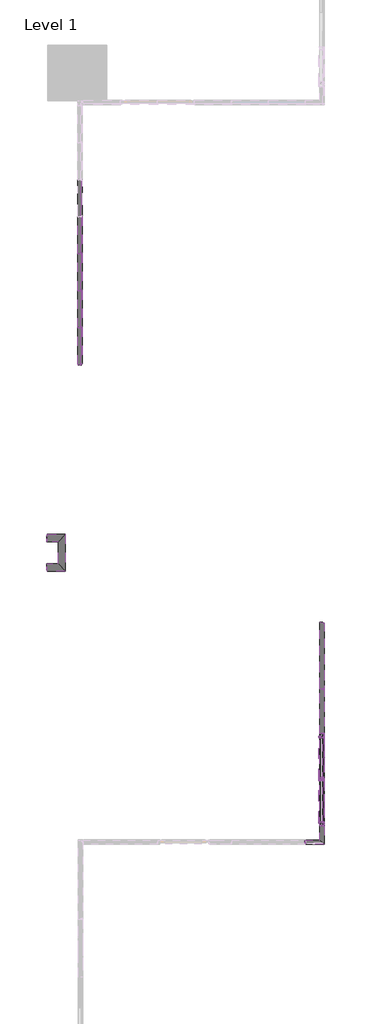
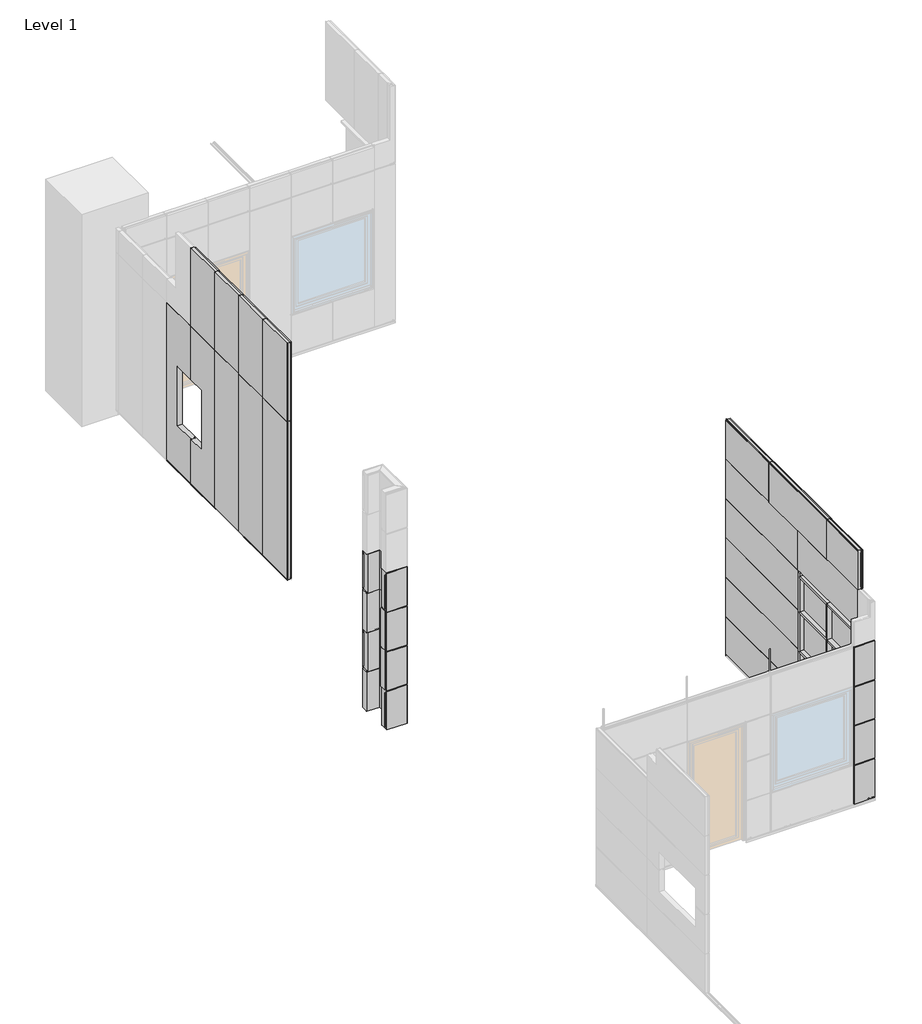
# One storey, part 3 of 8: 35 members, 33 plates.
"""IFC4 building model written with IfcOpenShell, lengths in millimetres."""

from ifc_helpers import new_model, si_unit, frame, origin, place, context, project, spatial, polyline, outline, extrude, faceted_brep, transform, mapped, element, save
from components import rectangular_mullion_6f3fd3cb, rectangular_mullion_86b3e6d7, rectangular_mullion_52986066, rectangular_mullion_401f5c11, rectangular_mullion_d7cd8770, rectangular_mullion_5a3240ae, rectangular_mullion_ec726168, rectangular_mullion_d88ccec7, rectangular_mullion_aa9de916, rectangular_mullion_dd22ac08, qb_typ_1_2f4cd647, qb_typ_1_d55a5ac8, qb_typ_1_eb4f195e, qb_typ_1_9b423ec7, qb_typ_1_69f6eb2a, qb_typ_1_f948df83, qb_typ_1_bbeed922, qb_typ_1_6f92aae7, qb_typ_2_ca77c89d, qb_typ_3_3dfc6f2a, qb_typ_3_48853b8a, qb_typ_3_5a49b5ee, qb_typ_3_3e02adca, qb_typ_4_36cb559f, system_panel_glazed_fed7d1a5, system_panel_glazed_3e1611a5, system_panel_glazed_b2c2fb9a

model = new_model("IFC4")

# Units and contexts
model_context = context("Model", 3, world=origin())
ifc_project = project(units=[si_unit("LENGTHUNIT", "METRE", prefix="MILLI")], contexts=[model_context])

# Site, building, storey
site = spatial("IfcSite", under=ifc_project)
building = spatial("IfcBuilding", under=site)
storey = spatial("IfcBuildingStorey", under=building, Name="Level 1", Elevation=0.0)

# Members
placement = place(None, origin())
rectangular_mullion_shape = rectangular_mullion_6f3fd3cb(model_context)
element("IfcMember", 1, ObjectType="Rectangular Mullion : TR_CW_¸ALU_internal", at=placement, inside=storey, context=model_context, shape_type="MappedRepresentation", body=[
    mapped(rectangular_mullion_shape, transform((0.0, -10250.1, 2135.0), x_axis=(0.0, -1.0, 0.0), y_axis=(-1.0, 0.0, 0.0), z_axis=(0.0, 0.0, -1.0))),
])
rectangular_mullion_2_shape = rectangular_mullion_86b3e6d7(model_context)
element("IfcMember", 2, ObjectType="Rectangular Mullion : TR_CW_ALU_border_TR_m", at=placement, inside=storey, context=model_context, shape_type="MappedRepresentation", body=[
    mapped(rectangular_mullion_2_shape, transform((0.0, -11500.1, 2135.0), x_axis=(0.0, -1.0, 0.0), y_axis=(-1.0, 0.0, 0.0), z_axis=(0.0, 0.0, -1.0))),
])
element("IfcMember", 3, ObjectType="Rectangular Mullion : TR_CW_ALU_border_TR", at=placement, inside=storey, context=model_context, shape_type="MappedRepresentation", body=[
    mapped(rectangular_mullion_2_shape, transform((0.0, -9000.1, 3135.0), x_axis=(0.0, 1.0, 0.0), y_axis=(-1.0, 0.0, 0.0), z_axis=(0.0, 0.0, 1.0))),
])
rectangular_mullion_3_shape = rectangular_mullion_52986066(model_context)
element("IfcMember", 4, ObjectType="Rectangular Mullion : TR_CW_¸ALU_internal", at=placement, inside=storey, context=model_context, shape_type="MappedRepresentation", body=[
    mapped(rectangular_mullion_3_shape, transform((0.0, -10225.1, 3135.0), x_axis=(0.0, 0.0, 1.0), y_axis=(-1.0, 0.0, 0.0), z_axis=(0.0, -1.0, 0.0))),
])
element("IfcMember", 5, ObjectType="Rectangular Mullion : TR_CW_¸ALU_internal", at=placement, inside=storey, context=model_context, shape_type="MappedRepresentation", body=[
    mapped(rectangular_mullion_3_shape, transform((0.0, -11382.6, 3135.0), x_axis=(0.0, 0.0, 1.0), y_axis=(-1.0, 0.0, 0.0), z_axis=(0.0, -1.0, 0.0))),
])
element("IfcMember", 6, ObjectType="Rectangular Mullion : TR_CW_¸ALU_internal", at=placement, inside=storey, context=model_context, shape_type="MappedRepresentation", body=[
    mapped(rectangular_mullion_3_shape, transform((0.0, -10225.1, 2135.0), x_axis=(0.0, 0.0, 1.0), y_axis=(-1.0, 0.0, 0.0), z_axis=(0.0, -1.0, 0.0))),
])
element("IfcMember", 7, ObjectType="Rectangular Mullion : TR_CW_¸ALU_internal", at=placement, inside=storey, context=model_context, shape_type="MappedRepresentation", body=[
    mapped(rectangular_mullion_3_shape, transform((0.0, -11382.6, 2135.0), x_axis=(0.0, 0.0, 1.0), y_axis=(-1.0, 0.0, 0.0), z_axis=(0.0, -1.0, 0.0))),
])
rectangular_mullion_4_shape = rectangular_mullion_401f5c11(model_context)
element("IfcMember", 8, ObjectType="Rectangular Mullion : TR_CW_ALU_border_TONGUE", at=placement, inside=storey, context=model_context, shape_type="MappedRepresentation", body=[
    mapped(rectangular_mullion_4_shape, transform((0.0, -9117.6, 1150.0), x_axis=(0.0, 0.0, -1.0), y_axis=(-1.0, 0.0, 0.0), z_axis=(0.0, 1.0, 0.0))),
])
rectangular_mullion_5_shape = rectangular_mullion_d7cd8770(model_context)
element("IfcMember", 9, ObjectType="Rectangular Mullion : TR_CW_¸ALU_internal", at=placement, inside=storey, context=model_context, shape_type="MappedRepresentation", body=[
    mapped(rectangular_mullion_5_shape, transform((0.0, -10250.1, 1251.0), x_axis=(0.0, -1.0, 0.0), y_axis=(-1.0, 0.0, 0.0), z_axis=(0.0, 0.0, -1.0))),
])
rectangular_mullion_6_shape = rectangular_mullion_5a3240ae(model_context)
element("IfcMember", 10, ObjectType="Rectangular Mullion : TR_CW_ALU_border_TR", at=placement, inside=storey, context=model_context, shape_type="MappedRepresentation", body=[
    mapped(rectangular_mullion_6_shape, transform((0.0, -9000.1, 2135.0), x_axis=(0.0, 1.0, 0.0), y_axis=(-1.0, 0.0, 0.0), z_axis=(0.0, 0.0, 1.0))),
])
rectangular_mullion_7_shape = rectangular_mullion_ec726168(model_context)
element("IfcMember", 11, ObjectType="Rectangular Mullion : TR_CW_ALU_border_TR_m", at=placement, inside=storey, context=model_context, shape_type="MappedRepresentation", body=[
    mapped(rectangular_mullion_7_shape, transform((0.0, -11500.1, 3135.0), x_axis=(0.0, -1.0, 0.0), y_axis=(-1.0, 0.0, 0.0), z_axis=(0.0, 0.0, -1.0))),
])
element("IfcMember", 12, ObjectType="Rectangular Mullion : TR_CW_ALU_border_TR", at=placement, inside=storey, context=model_context, shape_type="MappedRepresentation", body=[
    mapped(rectangular_mullion_7_shape, transform((0.0, -9000.1, 4150.0), x_axis=(0.0, 1.0, 0.0), y_axis=(-1.0, 0.0, 0.0), z_axis=(0.0, 0.0, 1.0))),
])
element("IfcMember", 13, ObjectType="Rectangular Mullion : TR_CW_ALU_border_TONGUE", at=placement, inside=storey, context=model_context, shape_type="MappedRepresentation", body=[
    mapped(rectangular_mullion_4_shape, transform((0.0, -10250.1, 1150.0), x_axis=(0.0, 0.0, -1.0), y_axis=(-1.0, 0.0, 0.0), z_axis=(0.0, 1.0, 0.0))),
])
element("IfcMember", 14, ObjectType="Rectangular Mullion : TR_CW_ALU_border_TR_m", at=placement, inside=storey, context=model_context, shape_type="MappedRepresentation", body=[
    mapped(rectangular_mullion_6_shape, transform((0.0, -11500.1, 1150.0), x_axis=(0.0, -1.0, 0.0), y_axis=(-1.0, 0.0, 0.0), z_axis=(0.0, 0.0, -1.0))),
])
rectangular_mullion_8_shape = rectangular_mullion_d88ccec7(model_context)
element("IfcMember", 15, ObjectType="Rectangular Mullion : TR_CW_ALU_border_GROOVE", at=placement, inside=storey, context=model_context, shape_type="MappedRepresentation", body=[
    mapped(rectangular_mullion_8_shape, transform((0.0, -11382.6, 4150.0), x_axis=(0.0, 0.0, 1.0), y_axis=(-1.0, 0.0, 0.0), z_axis=(0.0, -1.0, 0.0))),
])
element("IfcMember", 16, ObjectType="Rectangular Mullion : TR_CW_ALU_border_GROOVE", at=placement, inside=storey, context=model_context, shape_type="MappedRepresentation", body=[
    mapped(rectangular_mullion_8_shape, transform((0.0, -10250.1, 4150.0), x_axis=(0.0, 0.0, 1.0), y_axis=(-1.0, 0.0, 0.0), z_axis=(0.0, -1.0, 0.0))),
])
rectangular_mullion_9_shape = rectangular_mullion_aa9de916(model_context)
element("IfcMember", 17, ObjectType="Rectangular Mullion : TR_CW_¸ALU_internal", at=placement, inside=storey, context=model_context, shape_type="MappedRepresentation", body=[
    mapped(rectangular_mullion_9_shape, transform((0.0, -10250.1, 3135.0), x_axis=(0.0, -1.0, 0.0), y_axis=(-1.0, 0.0, 0.0), z_axis=(0.0, 0.0, -1.0))),
])
rectangular_mullion_10_shape = rectangular_mullion_dd22ac08(model_context)
element("IfcMember", 18, ObjectType="Rectangular Mullion : QO-H-01_01 Joint", at=placement, inside=storey, context=model_context, shape_type="MappedRepresentation", body=[
    mapped(rectangular_mullion_10_shape, transform((0.0, -9000.1, 150.0), x_axis=(0.0, -1.0, 0.0), y_axis=(-1.0, 0.0, 0.0), z_axis=(0.0, 0.0, -1.0))),
])
element("IfcMember", 19, ObjectType="Rectangular Mullion : QO-H-01_01 Joint", at=placement, inside=storey, context=model_context, shape_type="MappedRepresentation", body=[
    mapped(rectangular_mullion_10_shape, transform((0.0, -11500.1, 150.0), x_axis=(0.0, -1.0, 0.0), y_axis=(-1.0, 0.0, 0.0), z_axis=(0.0, 0.0, -1.0))),
])
element("IfcMember", 20, ObjectType="Rectangular Mullion : QO-H-01_01 Joint", at=placement, inside=storey, context=model_context, shape_type="MappedRepresentation", body=[
    mapped(rectangular_mullion_10_shape, transform((0.0, -9000.1, 1150.0), x_axis=(0.0, -1.0, 0.0), y_axis=(-1.0, 0.0, 0.0), z_axis=(0.0, 0.0, -1.0))),
])
element("IfcMember", 21, ObjectType="Rectangular Mullion : QO-H-01_01 Joint", at=placement, inside=storey, context=model_context, shape_type="MappedRepresentation", body=[
    mapped(rectangular_mullion_10_shape, transform((0.0, -9000.1, 2150.0), x_axis=(0.0, -1.0, 0.0), y_axis=(-1.0, 0.0, 0.0), z_axis=(0.0, 0.0, -1.0))),
])
element("IfcMember", 22, ObjectType="Rectangular Mullion : QO-H-01_01 Joint", at=placement, inside=storey, context=model_context, shape_type="MappedRepresentation", body=[
    mapped(rectangular_mullion_10_shape, transform((0.0, -9000.1, 3150.0), x_axis=(0.0, -1.0, 0.0), y_axis=(-1.0, 0.0, 0.0), z_axis=(0.0, 0.0, -1.0))),
])
element("IfcMember", 23, ObjectType="Rectangular Mullion : QO-H-01_01 Joint", at=placement, inside=storey, context=model_context, shape_type="MappedRepresentation", body=[
    mapped(rectangular_mullion_10_shape, transform((0.0, -11500.1, 1150.0), x_axis=(0.0, -1.0, 0.0), y_axis=(-1.0, 0.0, 0.0), z_axis=(0.0, 0.0, -1.0))),
])
element("IfcMember", 24, ObjectType="Rectangular Mullion : QO-H-01_01 Joint", at=placement, inside=storey, context=model_context, shape_type="MappedRepresentation", body=[
    mapped(rectangular_mullion_10_shape, transform((0.0, -11500.1, 2150.0), x_axis=(0.0, -1.0, 0.0), y_axis=(-1.0, 0.0, 0.0), z_axis=(0.0, 0.0, -1.0))),
])
element("IfcMember", 25, ObjectType="Rectangular Mullion : QO-H-01_01 Joint", at=placement, inside=storey, context=model_context, shape_type="MappedRepresentation", body=[
    mapped(rectangular_mullion_10_shape, transform((0.0, -11500.1, 3150.0), x_axis=(0.0, -1.0, 0.0), y_axis=(-1.0, 0.0, 0.0), z_axis=(0.0, 0.0, -1.0))),
])
element("IfcMember", 26, ObjectType="Rectangular Mullion : QO-H-01_01 Joint", at=placement, inside=storey, context=model_context, shape_type="MappedRepresentation", body=[
    mapped(rectangular_mullion_10_shape, transform((0.0, -11500.1, 4150.0), x_axis=(0.0, -1.0, 0.0), y_axis=(-1.0, 0.0, 0.0), z_axis=(0.0, 0.0, -1.0))),
])
element("IfcMember", 27, ObjectType="Rectangular Mullion : QO-H-01_01 Joint", at=placement, inside=storey, context=model_context, shape_type="MappedRepresentation", body=[
    mapped(rectangular_mullion_10_shape, transform((0.0, -9000.1, 4150.0), x_axis=(0.0, -1.0, 0.0), y_axis=(-1.0, 0.0, 0.0), z_axis=(0.0, 0.0, -1.0))),
])
element("IfcMember", 28, ObjectType="Rectangular Mullion : QO-H-01_01 Joint", at=placement, inside=storey, context=model_context, shape_type="MappedRepresentation", body=[
    mapped(rectangular_mullion_10_shape, transform((0.0, -11500.1, 5150.0), x_axis=(0.0, -1.0, 0.0), y_axis=(-1.0, 0.0, 0.0), z_axis=(0.0, 0.0, -1.0))),
])
element("IfcMember", 29, ObjectType="Rectangular Mullion : QO-H-01_01 Joint", at=placement, inside=storey, context=model_context, shape_type="MappedRepresentation", body=[
    mapped(rectangular_mullion_10_shape, transform((0.0, -10200.1, 5150.0), x_axis=(0.0, -1.0, 0.0), y_axis=(-1.0, 0.0, 0.0), z_axis=(0.0, 0.0, -1.0))),
])
element("IfcMember", 30, ObjectType="Rectangular Mullion : QO-H-01_01 Joint", at=placement, inside=storey, context=model_context, shape_type="MappedRepresentation", body=[
    mapped(rectangular_mullion_10_shape, transform((0.0, -7800.1, 5150.0), x_axis=(0.0, -1.0, 0.0), y_axis=(-1.0, 0.0, 0.0), z_axis=(0.0, 0.0, -1.0))),
])
element("IfcMember", 31, ObjectType="Rectangular Mullion : QO-V-01_01 Joint", at=placement, inside=storey, context=model_context, shape_type="MappedRepresentation", body=[
    mapped(rectangular_mullion_10_shape, transform((-6545.0000003, 4969.9999997, 4150.0), x_axis=(0.0, 0.0, 1.0), y_axis=(-1.0, 0.0, 0.0), z_axis=(0.0, -1.0, 0.0))),
])
element("IfcMember", 32, ObjectType="Rectangular Mullion : QO-V-01_01 Joint", at=placement, inside=storey, context=model_context, shape_type="MappedRepresentation", body=[
    mapped(rectangular_mullion_10_shape, transform((-6545.0000003, 3969.9999997, 4150.0), x_axis=(0.0, 0.0, 1.0), y_axis=(-1.0, 0.0, 0.0), z_axis=(0.0, -1.0, 0.0))),
])
element("IfcMember", 33, ObjectType="Rectangular Mullion : QO-V-01_01 Joint", at=placement, inside=storey, context=model_context, shape_type="MappedRepresentation", body=[
    mapped(rectangular_mullion_10_shape, transform((-6545.0000003, 2969.9999997, 4150.0), x_axis=(0.0, 0.0, 1.0), y_axis=(-1.0, 0.0, 0.0), z_axis=(0.0, -1.0, 0.0))),
])
element("IfcMember", 34, ObjectType="Rectangular Mullion : QO-V-01_01 Joint", at=placement, inside=storey, context=model_context, shape_type="MappedRepresentation", body=[
    mapped(rectangular_mullion_10_shape, transform((-6545.0000003, 1969.9999997, 4150.0), x_axis=(0.0, 0.0, 1.0), y_axis=(-1.0, 0.0, 0.0), z_axis=(0.0, -1.0, 0.0))),
])
element("IfcMember", 35, ObjectType="Rectangular Mullion : QO-V-01_01 Joint", at=placement, inside=storey, context=model_context, shape_type="MappedRepresentation", body=[
    mapped(rectangular_mullion_10_shape, transform((-6545.0000003, 970.0, 4150.0), x_axis=(0.0, 0.0, 1.0), y_axis=(-1.0, 0.0, 0.0), z_axis=(0.0, -1.0, 0.0))),
])

# Plates
qb_typ_1_shape = qb_typ_1_2f4cd647(model_context)
element("IfcPlate", 36, ObjectType="TR_C_H_QBISS_Panel : QB TYP 1", at=placement, inside=storey, context=model_context, shape_type="MappedRepresentation", body=[
    mapped(qb_typ_1_shape, transform((0.0, -7500.1, 150.0), x_axis=(0.0, -1.0, 0.0), y_axis=(1.0, 0.0, 0.0), z_axis=(0.0, 0.0, 1.0))),
])
element("IfcPlate", 37, ObjectType="TR_C_H_QBISS_Panel : QB TYP 1", at=placement, inside=storey, context=model_context, shape_type="MappedRepresentation", body=[
    mapped(qb_typ_1_shape, transform((0.0, -7500.1, 4150.0), x_axis=(0.0, -1.0, 0.0), y_axis=(1.0, 0.0, 0.0), z_axis=(0.0, 0.0, 1.0))),
])
qb_typ_1_2_shape = qb_typ_1_d55a5ac8(model_context)
element("IfcPlate", 38, ObjectType="TR_C_H_QBISS_Panel : QB TYP 1", at=placement, inside=storey, context=model_context, shape_type="MappedRepresentation", body=[
    mapped(qb_typ_1_2_shape, transform((0.0, -10250.1, 150.0), x_axis=(0.0, -1.0, 0.0), y_axis=(1.0, 0.0, 0.0), z_axis=(0.0, 0.0, 1.0))),
])
element("IfcPlate", 39, ObjectType="TR_C_H_QBISS_Panel : QB TYP 1", at=placement, inside=storey, context=model_context, shape_type="MappedRepresentation", body=[
    mapped(qb_typ_1_2_shape, transform((0.0, -10250.1, 4150.0), x_axis=(0.0, -1.0, 0.0), y_axis=(1.0, 0.0, 0.0), z_axis=(0.0, 0.0, 1.0))),
])
qb_typ_1_3_shape = qb_typ_1_eb4f195e(model_context)
element("IfcPlate", 40, ObjectType="TR_C_H_QBISS_Panel : QB TYP 1", at=placement, inside=storey, context=model_context, shape_type="MappedRepresentation", body=[
    mapped(qb_typ_1_3_shape, transform((0.0, -6900.1, 5150.0), x_axis=(0.0, -1.0, 0.0), y_axis=(1.0, 0.0, 0.0), z_axis=(0.0, 0.0, 1.0))),
])
qb_typ_1_4_shape = qb_typ_1_9b423ec7(model_context)
element("IfcPlate", 41, ObjectType="TR_C_H_QBISS_Panel : QB TYP 1", at=placement, inside=storey, context=model_context, shape_type="MappedRepresentation", body=[
    mapped(qb_typ_1_4_shape, transform((0.0, -10850.1, 5150.0), x_axis=(0.0, -1.0, 0.0), y_axis=(1.0, 0.0, 0.0), z_axis=(0.0, 0.0, 1.0))),
])
qb_typ_1_5_shape = qb_typ_1_69f6eb2a(model_context)
element("IfcPlate", 42, ObjectType="TR_C_H_QBISS_Panel : QB TYP 1", at=placement, inside=storey, context=model_context, shape_type="MappedRepresentation", body=[
    mapped(qb_typ_1_5_shape, transform((0.0, -9000.1, 5150.0), x_axis=(0.0, -1.0, 0.0), y_axis=(1.0, 0.0, 0.0), z_axis=(0.0, 0.0, 1.0))),
])
qb_typ_1_6_shape = qb_typ_1_f948df83(model_context)
element("IfcPlate", 43, ObjectType="TR_C_V_QBISS_Panel : QB TYP 1", at=placement, inside=storey, context=model_context, shape_type="MappedRepresentation", body=[
    mapped(qb_typ_1_6_shape, transform((-6545.0000003, 4469.9999997, 4150.0), x_axis=(0.0, -1.0, 0.0), y_axis=(1.0, 0.0, 0.0), z_axis=(0.0, 0.0, 1.0))),
])
element("IfcPlate", 44, ObjectType="TR_C_V_QBISS_Panel : QB TYP 1", at=placement, inside=storey, context=model_context, shape_type="MappedRepresentation", body=[
    mapped(qb_typ_1_6_shape, transform((-6545.0000003, 3469.9999997, 4150.0), x_axis=(0.0, -1.0, 0.0), y_axis=(1.0, 0.0, 0.0), z_axis=(0.0, 0.0, 1.0))),
])
element("IfcPlate", 45, ObjectType="TR_C_V_QBISS_Panel : QB TYP 1", at=placement, inside=storey, context=model_context, shape_type="MappedRepresentation", body=[
    mapped(qb_typ_1_6_shape, transform((-6545.0000003, 2469.9999997, 4150.0), x_axis=(0.0, -1.0, 0.0), y_axis=(1.0, 0.0, 0.0), z_axis=(0.0, 0.0, 1.0))),
])
element("IfcPlate", 46, ObjectType="TR_C_V_QBISS_Panel : QB TYP 1", at=placement, inside=storey, context=model_context, shape_type="MappedRepresentation", body=[
    mapped(qb_typ_1_6_shape, transform((-6545.0000003, 1469.9999998, 4150.0), x_axis=(0.0, -1.0, 0.0), y_axis=(1.0, 0.0, 0.0), z_axis=(0.0, 0.0, 1.0))),
])
qb_typ_1_7_shape = qb_typ_1_bbeed922(model_context)
element("IfcPlate", 47, ObjectType="TR_C_H_QBISS_Corner_Tr_A : QB TYP 1", at=placement, inside=storey, context=model_context, shape_type="MappedRepresentation", body=[
    mapped(qb_typ_1_7_shape, transform((0.0, -11750.1, 150.0), x_axis=(0.0, -1.0, 0.0), y_axis=(1.0, 0.0, 0.0), z_axis=(0.0, 0.0, 1.0))),
])
element("IfcPlate", 48, ObjectType="TR_C_H_QBISS_Corner_Tr_A : QB TYP 1", at=placement, inside=storey, context=model_context, shape_type="MappedRepresentation", body=[
    mapped(qb_typ_1_7_shape, transform((0.0, -11750.1, 3150.0), x_axis=(0.0, -1.0, 0.0), y_axis=(1.0, 0.0, 0.0), z_axis=(0.0, 0.0, 1.0))),
])
qb_typ_1_8_shape = qb_typ_1_6f92aae7(model_context)
element("IfcPlate", 49, ObjectType="TR_C_H_QBISS_U_Corner_Tr : QB TYP 1", at=placement, inside=storey, context=model_context, shape_type="MappedRepresentation", body=[
    mapped(qb_typ_1_8_shape, transform((-7000.0, -4114.1000003, 0.0), x_axis=(0.0, -1.0, 0.0), y_axis=(1.0, 0.0, 0.0), z_axis=(0.0, 0.0, 1.0))),
])
qb_typ_2_shape = qb_typ_2_ca77c89d(model_context)
element("IfcPlate", 50, ObjectType="TR_C_H_QBISS_U_Corner_Tr : QB TYP 2", at=placement, inside=storey, context=model_context, shape_type="MappedRepresentation", body=[
    mapped(qb_typ_2_shape, transform((-7000.0, -4114.1000003, 1000.0), x_axis=(0.0, -1.0, 0.0), y_axis=(1.0, 0.0, 0.0), z_axis=(0.0, 0.0, 1.0))),
])
element("IfcPlate", 51, ObjectType="TR_C_V_QBISS_Panel : QB TYP 3", at=placement, inside=storey, context=model_context, shape_type="SolidModel", body=[
    extrude(outline(polyline([(-6569.0000003, 4995.4999997), (-6569.0000003, 4975.4999997), (-6570.499832, 4975.4999997), (-6570.499832, 4982.2976404), (-6572.9998296, 4982.2976404), (-6572.9998296, 4981.4976404), (-6573.7998431, 4981.4976404), (-6573.7998431, 4989.4976969), (-6572.9998296, 4989.4976969), (-6572.9998296, 4988.6976969), (-6570.499832, 4988.6976969), (-6570.499832, 4995.4999997), (-6569.0000003, 4995.4999997)])), frame((0.0, 0.0, 2805.0), z_axis=(0.0, 0.0, 1.0), x_axis=(1.0, 0.0, 0.0)), (0.0, 0.0, 1.0), 1332.5),
    extrude(outline(polyline([(-6569.0000003, 4975.4999997), (-6570.499832, 4975.4999997), (-6570.499832, 4982.2976404), (-6572.9998296, 4982.2976404), (-6572.9998296, 4981.4976404), (-6573.7998431, 4981.4976404), (-6573.7998431, 4989.4976969), (-6572.9998296, 4989.4976969), (-6572.9998296, 4988.6976969), (-6570.499832, 4988.6976969), (-6570.499832, 4995.4999997), (-6569.0000003, 4995.4999997), (-6569.0000003, 4975.4999997)])), frame((0.0, 0.0, 162.5), z_axis=(0.0, 0.0, 1.0), x_axis=(1.0, 0.0, 0.0)), (0.0, 0.0, 1.0), 1132.5),
    faceted_brep([(-6653.0000003, 5969.9999997, 4162.4), (-6653.0000003, 5956.9999997, 4162.4), (-6659.0000003, 5956.9999997, 4162.4), (-6659.0000003, 5977.9999997, 4162.4), (-6665.0000003, 5977.9999997, 4162.4), (-6665.0000003, 4983.9999997, 4162.4), (-6659.0000003, 4977.9999997, 4162.4), (-6659.0000003, 4959.9999997, 4162.4), (-6653.0000003, 4959.9999997, 4162.4), (-6653.0000003, 4969.9999997, 4162.4), (-6594.0000003, 4969.9999997, 4162.4), (-6594.0000003, 5969.9999997, 4162.4), (-6653.0000003, 4969.9999997, 137.6), (-6653.0000003, 4959.9999997, 137.6), (-6659.0000003, 4959.9999997, 137.6), (-6659.0000003, 4977.9999997, 137.6), (-6665.0000003, 4983.9999997, 137.6), (-6665.0000003, 5977.9999997, 137.6), (-6659.0000003, 5977.9999997, 137.6), (-6659.0000003, 5956.9999997, 137.6), (-6653.0000003, 5956.9999997, 137.6), (-6653.0000003, 5969.9999997, 137.6), (-6594.0000003, 5969.9999997, 137.6), (-6594.0000003, 4969.9999997, 137.6), (-6594.0000003, 5969.9999997, 162.7), (-6594.0000003, 4969.9999997, 162.7), (-6584.0000003, 5969.9999997, 162.7), (-6584.0000003, 5956.9999997, 162.7), (-6574.0000003, 5956.9999997, 162.7), (-6574.0000003, 5973.9999997, 162.7), (-6545.0000003, 5973.9999997, 162.7), (-6545.0000003, 4996.9999997, 162.7), (-6574.0000003, 4996.9999997, 162.7), (-6574.0000003, 4959.9999997, 162.7), (-6584.0000003, 4959.9999997, 162.7), (-6584.0000003, 4969.9999997, 162.7), (-6665.0000003, 4983.9999997, 1250.0), (-6665.0000003, 4983.9999997, 1295.0), (-6665.0000003, 5535.0, 1295.0), (-6665.0000003, 5535.0, 2805.0), (-6665.0000003, 4983.9999997, 2805.0), (-6665.0000003, 4983.9999997, 2850.0), (-6659.0000003, 4977.9999997, 2805.0), (-6659.0000003, 4959.9999997, 2805.0), (-6653.0000003, 4959.9999997, 2805.0), (-6653.0000003, 4969.9999997, 2805.0), (-6584.0000003, 4969.9999997, 2805.0), (-6584.0000003, 4969.9999997, 4137.3), (-6594.0000003, 4969.9999997, 4137.3), (-6584.0000003, 4959.9999997, 4137.3), (-6584.0000003, 4959.9999997, 2805.0), (-6574.0000003, 4959.9999997, 4137.3), (-6574.0000003, 4959.9999997, 2805.0), (-6574.0000003, 4996.9999997, 4137.3), (-6574.0000003, 4996.9999997, 2805.0), (-6545.0000003, 4996.9999997, 4137.3), (-6545.0000003, 4996.9999997, 2805.0), (-6574.0000003, 5973.9999997, 4137.3), (-6545.0000003, 5973.9999997, 4137.3), (-6574.0000003, 5956.9999997, 4137.3), (-6584.0000003, 5956.9999997, 4137.3), (-6584.0000003, 5969.9999997, 4137.3), (-6594.0000003, 5969.9999997, 4137.3), (-6584.0000003, 4969.9999997, 1295.0), (-6653.0000003, 4969.9999997, 1295.0), (-6584.0000003, 4959.9999997, 1295.0), (-6574.0000003, 4959.9999997, 1295.0), (-6574.0000003, 4996.9999997, 1295.0), (-6545.0000003, 4996.9999997, 1295.0), (-6545.0000003, 5535.0, 2805.0), (-6545.0000003, 5535.0, 1295.0), (-6659.0000003, 4977.9999997, 1295.0), (-6659.0000003, 4959.9999997, 1295.0), (-6653.0000003, 4959.9999997, 1295.0)], [[[0, 1, 2, 3, 4, 5, 6, 7, 8, 9, 10, 11]], [[12, 13, 14, 15, 16, 17, 18, 19, 20, 21, 22, 23]], [[23, 22, 24, 25]], [[25, 24, 26, 27, 28, 29, 30, 31, 32, 33, 34, 35]], [[1, 0, 21, 20]], [[2, 1, 20, 19]], [[3, 2, 19, 18]], [[4, 3, 18, 17]], [[5, 4, 17, 16, 36, 37, 38, 39, 40, 41]], [[6, 5, 41, 40, 42]], [[7, 6, 42, 43]], [[8, 7, 43, 44]], [[9, 8, 44, 45]], [[10, 9, 45, 46, 47, 48]], [[49, 47, 46, 50]], [[51, 49, 50, 52]], [[53, 51, 52, 54]], [[55, 53, 54, 56]], [[30, 29, 57, 58]], [[29, 28, 59, 57]], [[28, 27, 60, 59]], [[27, 26, 61, 60]], [[0, 11, 62, 61, 26, 24, 22, 21]], [[11, 10, 48, 62]], [[48, 47, 49, 51, 53, 55, 58, 57, 59, 60, 61, 62]], [[12, 23, 25, 35, 63, 64]], [[35, 34, 65, 63]], [[34, 33, 66, 65]], [[33, 32, 67, 66]], [[32, 31, 68, 67]], [[31, 30, 58, 55, 56, 69, 70, 68]], [[39, 69, 56, 54, 52, 50, 46, 45, 44, 43, 42, 40]], [[70, 38, 37, 71, 72, 73, 64, 63, 65, 66, 67, 68]], [[69, 39, 38, 70]], [[16, 15, 71, 37, 36]], [[15, 14, 72, 71]], [[14, 13, 73, 72]], [[13, 12, 64, 73]]]),
])
element("IfcPlate", 52, ObjectType="TR_C_V_QBISS_Panel : QB TYP 3", at=placement, inside=storey, context=model_context, shape_type="SolidModel", body=[
    extrude(outline(polyline([(-6569.0000003, 3975.4999997), (-6570.499832, 3975.4999997), (-6570.499832, 3982.2976404), (-6572.9998296, 3982.2976404), (-6572.9998296, 3981.4976404), (-6573.7998431, 3981.4976404), (-6573.7998431, 3989.4976969), (-6572.9998296, 3989.4976969), (-6572.9998296, 3988.6976969), (-6570.499832, 3988.6976969), (-6570.499832, 3995.4999997), (-6569.0000003, 3995.4999997), (-6569.0000003, 3975.4999997)])), frame((0.0, 0.0, 162.5), z_axis=(0.0, 0.0, 1.0), x_axis=(1.0, 0.0, 0.0)), (0.0, 0.0, 1.0), 3975.0),
    faceted_brep([(-6653.0000003, 4969.9999997, 4162.4), (-6653.0000003, 4956.9999997, 4162.4), (-6659.0000003, 4956.9999997, 4162.4), (-6659.0000003, 4977.9999997, 4162.4), (-6665.0000003, 4977.9999997, 4162.4), (-6665.0000003, 3983.9999997, 4162.4), (-6659.0000003, 3977.9999997, 4162.4), (-6659.0000003, 3959.9999997, 4162.4), (-6653.0000003, 3959.9999997, 4162.4), (-6653.0000003, 3969.9999997, 4162.4), (-6594.0000003, 3969.9999997, 4162.4), (-6594.0000003, 4969.9999997, 4162.4), (-6653.0000003, 3969.9999997, 137.6), (-6653.0000003, 3959.9999997, 137.6), (-6659.0000003, 3959.9999997, 137.6), (-6659.0000003, 3977.9999997, 137.6), (-6665.0000003, 3983.9999997, 137.6), (-6665.0000003, 4977.9999997, 137.6), (-6659.0000003, 4977.9999997, 137.6), (-6659.0000003, 4956.9999997, 137.6), (-6653.0000003, 4956.9999997, 137.6), (-6653.0000003, 4969.9999997, 137.6), (-6594.0000003, 4969.9999997, 137.6), (-6594.0000003, 3969.9999997, 137.6), (-6594.0000003, 4969.9999997, 162.7), (-6594.0000003, 3969.9999997, 162.7), (-6584.0000003, 4969.9999997, 162.7), (-6584.0000003, 4956.9999997, 162.7), (-6574.0000003, 4956.9999997, 162.7), (-6574.0000003, 4973.9999997, 162.7), (-6545.0000003, 4973.9999997, 162.7), (-6545.0000003, 3996.9999997, 162.7), (-6574.0000003, 3996.9999997, 162.7), (-6574.0000003, 3959.9999997, 162.7), (-6584.0000003, 3959.9999997, 162.7), (-6584.0000003, 3969.9999997, 162.7), (-6653.0000003, 4969.9999997, 2805.0), (-6653.0000003, 4956.9999997, 2805.0), (-6659.0000003, 4956.9999997, 2805.0), (-6659.0000003, 4977.9999997, 2805.0), (-6665.0000003, 4977.9999997, 2805.0), (-6665.0000003, 4977.9999997, 2850.0), (-6665.0000003, 4525.0, 2805.0), (-6665.0000003, 4525.0, 1295.0), (-6665.0000003, 4977.9999997, 1295.0), (-6665.0000003, 4977.9999997, 1250.0), (-6584.0000003, 3969.9999997, 4137.3), (-6594.0000003, 3969.9999997, 4137.3), (-6584.0000003, 3959.9999997, 4137.3), (-6574.0000003, 3959.9999997, 4137.3), (-6574.0000003, 3996.9999997, 4137.3), (-6545.0000003, 3996.9999997, 4137.3), (-6574.0000003, 4973.9999997, 4137.3), (-6545.0000003, 4973.9999997, 4137.3), (-6545.0000003, 4973.9999997, 2805.0), (-6574.0000003, 4973.9999997, 2805.0), (-6574.0000003, 4956.9999997, 4137.3), (-6574.0000003, 4956.9999997, 2805.0), (-6584.0000003, 4956.9999997, 4137.3), (-6584.0000003, 4956.9999997, 2805.0), (-6584.0000003, 4969.9999997, 4137.3), (-6584.0000003, 4969.9999997, 2805.0), (-6594.0000003, 4969.9999997, 4137.3), (-6545.0000003, 4973.9999997, 1295.0), (-6545.0000003, 4525.0, 1295.0), (-6545.0000003, 4525.0, 2805.0), (-6574.0000003, 4973.9999997, 1295.0), (-6574.0000003, 4956.9999997, 1295.0), (-6584.0000003, 4956.9999997, 1295.0), (-6584.0000003, 4969.9999997, 1295.0), (-6653.0000003, 4969.9999997, 1295.0), (-6653.0000003, 4956.9999997, 1295.0), (-6659.0000003, 4956.9999997, 1295.0), (-6659.0000003, 4977.9999997, 1295.0)], [[[0, 1, 2, 3, 4, 5, 6, 7, 8, 9, 10, 11]], [[12, 13, 14, 15, 16, 17, 18, 19, 20, 21, 22, 23]], [[23, 22, 24, 25]], [[25, 24, 26, 27, 28, 29, 30, 31, 32, 33, 34, 35]], [[1, 0, 36, 37]], [[2, 1, 37, 38]], [[3, 2, 38, 39]], [[4, 3, 39, 40, 41]], [[5, 4, 41, 40, 42, 43, 44, 45, 17, 16]], [[6, 5, 16, 15]], [[7, 6, 15, 14]], [[8, 7, 14, 13]], [[9, 8, 13, 12]], [[10, 9, 12, 23, 25, 35, 46, 47]], [[35, 34, 48, 46]], [[34, 33, 49, 48]], [[33, 32, 50, 49]], [[32, 31, 51, 50]], [[52, 53, 54, 55]], [[56, 52, 55, 57]], [[58, 56, 57, 59]], [[60, 58, 59, 61]], [[0, 11, 62, 60, 61, 36]], [[11, 10, 47, 62]], [[47, 46, 48, 49, 50, 51, 53, 52, 56, 58, 60, 62]], [[31, 30, 63, 64, 65, 54, 53, 51]], [[65, 42, 40, 39, 38, 37, 36, 61, 59, 57, 55, 54]], [[43, 64, 63, 66, 67, 68, 69, 70, 71, 72, 73, 44]], [[30, 29, 66, 63]], [[29, 28, 67, 66]], [[28, 27, 68, 67]], [[27, 26, 69, 68]], [[22, 21, 70, 69, 26, 24]], [[42, 65, 64, 43]], [[21, 20, 71, 70]], [[18, 17, 45, 44, 73]], [[20, 19, 72, 71]], [[19, 18, 73, 72]]]),
])
element("IfcPlate", 53, ObjectType="TR_C_V_QBISS_Panel : QB TYP 3", at=placement, inside=storey, context=model_context, shape_type="SolidModel", body=[
    extrude(outline(polyline([(-6569.0000003, 2975.4999997), (-6570.499832, 2975.4999997), (-6570.499832, 2982.2976404), (-6572.9998296, 2982.2976404), (-6572.9998296, 2981.4976404), (-6573.7998431, 2981.4976404), (-6573.7998431, 2989.4976969), (-6572.9998296, 2989.4976969), (-6572.9998296, 2988.6976969), (-6570.499832, 2988.6976969), (-6570.499832, 2995.4999997), (-6569.0000003, 2995.4999997), (-6569.0000003, 2975.4999997)])), frame((0.0, 0.0, 162.5), z_axis=(0.0, 0.0, 1.0), x_axis=(1.0, 0.0, 0.0)), (0.0, 0.0, 1.0), 3975.0),
    faceted_brep([(-6653.0000003, 3969.9999997, 4162.4), (-6653.0000003, 3956.9999997, 4162.4), (-6659.0000003, 3956.9999997, 4162.4), (-6659.0000003, 3977.9999997, 4162.4), (-6665.0000003, 3977.9999997, 4162.4), (-6665.0000003, 2983.9999997, 4162.4), (-6659.0000003, 2977.9999997, 4162.4), (-6659.0000003, 2959.9999997, 4162.4), (-6653.0000003, 2959.9999997, 4162.4), (-6653.0000003, 2969.9999997, 4162.4), (-6594.0000003, 2969.9999997, 4162.4), (-6594.0000003, 3969.9999997, 4162.4), (-6653.0000003, 2969.9999997, 137.6), (-6653.0000003, 2959.9999997, 137.6), (-6659.0000003, 2959.9999997, 137.6), (-6659.0000003, 2977.9999997, 137.6), (-6665.0000003, 2983.9999997, 137.6), (-6665.0000003, 3977.9999997, 137.6), (-6659.0000003, 3977.9999997, 137.6), (-6659.0000003, 3956.9999997, 137.6), (-6653.0000003, 3956.9999997, 137.6), (-6653.0000003, 3969.9999997, 137.6), (-6594.0000003, 3969.9999997, 137.6), (-6594.0000003, 2969.9999997, 137.6), (-6594.0000003, 3969.9999997, 162.7), (-6594.0000003, 2969.9999997, 162.7), (-6584.0000003, 3969.9999997, 162.7), (-6584.0000003, 3956.9999997, 162.7), (-6574.0000003, 3956.9999997, 162.7), (-6574.0000003, 3973.9999997, 162.7), (-6545.0000003, 3973.9999997, 162.7), (-6545.0000003, 2996.9999997, 162.7), (-6574.0000003, 2996.9999997, 162.7), (-6574.0000003, 2959.9999997, 162.7), (-6584.0000003, 2959.9999997, 162.7), (-6584.0000003, 2969.9999997, 162.7), (-6584.0000003, 2969.9999997, 4137.3), (-6594.0000003, 2969.9999997, 4137.3), (-6584.0000003, 2959.9999997, 4137.3), (-6574.0000003, 2959.9999997, 4137.3), (-6574.0000003, 2996.9999997, 4137.3), (-6545.0000003, 2996.9999997, 4137.3), (-6545.0000003, 3973.9999997, 4137.3), (-6574.0000003, 3973.9999997, 4137.3), (-6574.0000003, 3956.9999997, 4137.3), (-6584.0000003, 3956.9999997, 4137.3), (-6584.0000003, 3969.9999997, 4137.3), (-6594.0000003, 3969.9999997, 4137.3)], [[[0, 1, 2, 3, 4, 5, 6, 7, 8, 9, 10, 11]], [[12, 13, 14, 15, 16, 17, 18, 19, 20, 21, 22, 23]], [[24, 25, 23, 22]], [[25, 24, 26, 27, 28, 29, 30, 31, 32, 33, 34, 35]], [[1, 0, 21, 20]], [[2, 1, 20, 19]], [[3, 2, 19, 18]], [[4, 3, 18, 17]], [[5, 4, 17, 16]], [[6, 5, 16, 15]], [[7, 6, 15, 14]], [[8, 7, 14, 13]], [[9, 8, 13, 12]], [[9, 12, 23, 25, 35, 36, 37, 10]], [[35, 34, 38, 36]], [[34, 33, 39, 38]], [[33, 32, 40, 39]], [[32, 31, 41, 40]], [[31, 30, 42, 41]], [[30, 29, 43, 42]], [[29, 28, 44, 43]], [[28, 27, 45, 44]], [[27, 26, 46, 45]], [[21, 0, 11, 47, 46, 26, 24, 22]], [[37, 47, 11, 10]], [[47, 37, 36, 38, 39, 40, 41, 42, 43, 44, 45, 46]]]),
])
qb_typ_3_shape = qb_typ_3_3dfc6f2a(model_context)
element("IfcPlate", 54, ObjectType="TR_C_V_QBISS_Panel : QB TYP 3", at=placement, inside=storey, context=model_context, shape_type="MappedRepresentation", body=[
    mapped(qb_typ_3_shape, transform((-6545.0000003, 2469.9999997, 150.0), x_axis=(0.0, -1.0, 0.0), y_axis=(1.0, 0.0, 0.0), z_axis=(0.0, 0.0, 1.0))),
])
element("IfcPlate", 55, ObjectType="TR_C_V_QBISS_Panel : QB TYP 3", at=placement, inside=storey, context=model_context, shape_type="MappedRepresentation", body=[
    mapped(qb_typ_3_shape, transform((-6545.0000003, 1469.9999998, 150.0), x_axis=(0.0, -1.0, 0.0), y_axis=(1.0, 0.0, 0.0), z_axis=(0.0, 0.0, 1.0))),
])
qb_typ_3_2_shape = qb_typ_3_48853b8a(model_context)
element("IfcPlate", 56, ObjectType="TR_C_H_QBISS_Panel : QB TYP 3", at=placement, inside=storey, context=model_context, shape_type="MappedRepresentation", body=[
    mapped(qb_typ_3_2_shape, transform((0.0, -7500.1, 1150.0), x_axis=(0.0, -1.0, 0.0), y_axis=(1.0, 0.0, 0.0), z_axis=(0.0, 0.0, 1.0))),
])
element("IfcPlate", 57, ObjectType="TR_C_H_QBISS_Panel : QB TYP 3", at=placement, inside=storey, context=model_context, shape_type="MappedRepresentation", body=[
    mapped(qb_typ_3_2_shape, transform((0.0, -7500.1, 2150.0), x_axis=(0.0, -1.0, 0.0), y_axis=(1.0, 0.0, 0.0), z_axis=(0.0, 0.0, 1.0))),
])
element("IfcPlate", 58, ObjectType="TR_C_H_QBISS_Panel : QB TYP 3", at=placement, inside=storey, context=model_context, shape_type="MappedRepresentation", body=[
    mapped(qb_typ_3_2_shape, transform((0.0, -7500.1, 3150.0), x_axis=(0.0, -1.0, 0.0), y_axis=(1.0, 0.0, 0.0), z_axis=(0.0, 0.0, 1.0))),
])
qb_typ_3_3_shape = qb_typ_3_5a49b5ee(model_context)
element("IfcPlate", 59, ObjectType="TR_C_H_QBISS_Corner_Tr_A : QB TYP 3", at=placement, inside=storey, context=model_context, shape_type="MappedRepresentation", body=[
    mapped(qb_typ_3_3_shape, transform((0.0, -11750.1, 1150.0), x_axis=(0.0, -1.0, 0.0), y_axis=(1.0, 0.0, 0.0), z_axis=(0.0, 0.0, 1.0))),
])
element("IfcPlate", 60, ObjectType="TR_C_H_QBISS_Corner_Tr_A : QB TYP 3", at=placement, inside=storey, context=model_context, shape_type="MappedRepresentation", body=[
    mapped(qb_typ_3_3_shape, transform((0.0, -11750.1, 2150.0), x_axis=(0.0, -1.0, 0.0), y_axis=(1.0, 0.0, 0.0), z_axis=(0.0, 0.0, 1.0))),
])
qb_typ_3_4_shape = qb_typ_3_3e02adca(model_context)
element("IfcPlate", 61, ObjectType="TR_C_H_QBISS_U_Corner_Tr : QB TYP 3", at=placement, inside=storey, context=model_context, shape_type="MappedRepresentation", body=[
    mapped(qb_typ_3_4_shape, transform((-7000.0, -4114.1000003, 2000.0), x_axis=(0.0, -1.0, 0.0), y_axis=(1.0, 0.0, 0.0), z_axis=(0.0, 0.0, 1.0))),
])
qb_typ_4_shape = qb_typ_4_36cb559f(model_context)
element("IfcPlate", 62, ObjectType="TR_C_H_QBISS_U_Corner_Tr : QB TYP 4", at=placement, inside=storey, context=model_context, shape_type="MappedRepresentation", body=[
    mapped(qb_typ_4_shape, transform((-7000.0, -4114.1000003, 3000.0), x_axis=(0.0, -1.0, 0.0), y_axis=(1.0, 0.0, 0.0), z_axis=(0.0, 0.0, 1.0))),
])
system_panel_glazed_shape = system_panel_glazed_fed7d1a5(model_context)
element("IfcPlate", 63, ObjectType="System Panel : Glazed", at=placement, inside=storey, context=model_context, shape_type="MappedRepresentation", body=[
    mapped(system_panel_glazed_shape, transform((0.0, -9671.35, 1236.0), x_axis=(0.0, -1.0, 0.0), y_axis=(1.0, 0.0, 0.0), z_axis=(0.0, 0.0, 1.0))),
])
element("IfcPlate", 64, ObjectType="System Panel : Glazed", at=placement, inside=storey, context=model_context, shape_type="MappedRepresentation", body=[
    mapped(system_panel_glazed_shape, transform((0.0, -10828.85, 1236.0), x_axis=(0.0, -1.0, 0.0), y_axis=(1.0, 0.0, 0.0), z_axis=(0.0, 0.0, 1.0))),
])
system_panel_glazed_2_shape = system_panel_glazed_3e1611a5(model_context)
element("IfcPlate", 65, ObjectType="System Panel : Glazed", at=placement, inside=storey, context=model_context, shape_type="MappedRepresentation", body=[
    mapped(system_panel_glazed_2_shape, transform((0.0, -9671.35, 3145.0), x_axis=(0.0, -1.0, 0.0), y_axis=(1.0, 0.0, 0.0), z_axis=(0.0, 0.0, 1.0))),
])
element("IfcPlate", 66, ObjectType="System Panel : Glazed", at=placement, inside=storey, context=model_context, shape_type="MappedRepresentation", body=[
    mapped(system_panel_glazed_2_shape, transform((0.0, -10828.85, 3145.0), x_axis=(0.0, -1.0, 0.0), y_axis=(1.0, 0.0, 0.0), z_axis=(0.0, 0.0, 1.0))),
])
system_panel_glazed_3_shape = system_panel_glazed_b2c2fb9a(model_context)
element("IfcPlate", 67, ObjectType="System Panel : Glazed", at=placement, inside=storey, context=model_context, shape_type="MappedRepresentation", body=[
    mapped(system_panel_glazed_3_shape, transform((0.0, -9671.35, 2145.0), x_axis=(0.0, -1.0, 0.0), y_axis=(1.0, 0.0, 0.0), z_axis=(0.0, 0.0, 1.0))),
])
element("IfcPlate", 68, ObjectType="System Panel : Glazed", at=placement, inside=storey, context=model_context, shape_type="MappedRepresentation", body=[
    mapped(system_panel_glazed_3_shape, transform((0.0, -10828.85, 2145.0), x_axis=(0.0, -1.0, 0.0), y_axis=(1.0, 0.0, 0.0), z_axis=(0.0, 0.0, 1.0))),
])

save(model, "model.ifc")
